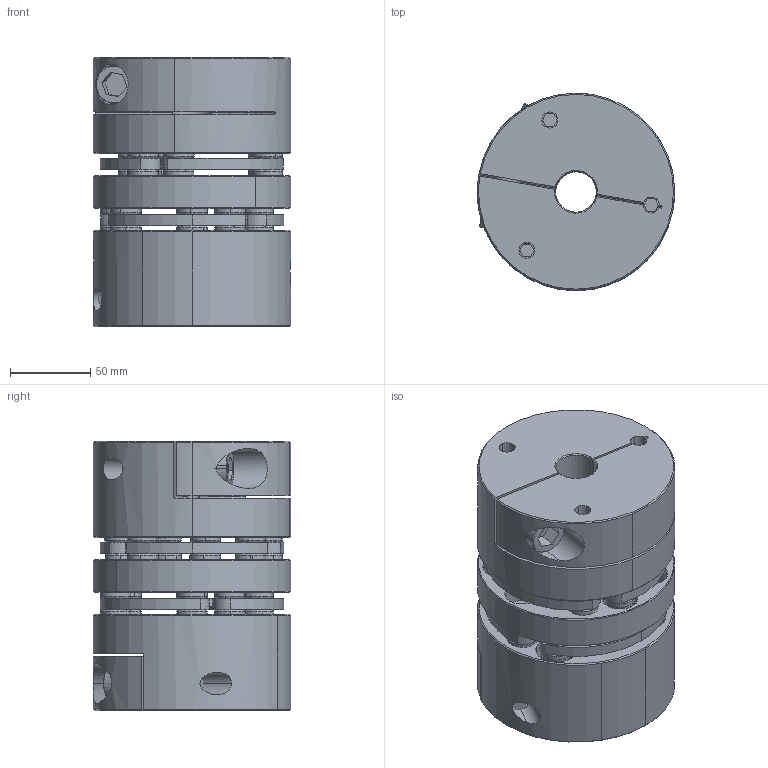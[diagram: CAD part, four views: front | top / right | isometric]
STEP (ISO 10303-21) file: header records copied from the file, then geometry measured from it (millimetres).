
FILE_DESCRIPTION((''),'2;1');
FILE_NAME('6P45-A1C','2019-02-14T',('SYSTEM'),(''),'PRO/ENGINEER BY PARAMETRIC TECHNOLOGY CORPORATION, 2016360','PRO/ENGINEER BY PARAMETRIC TECHNOLOGY CORPORATION, 2016360','');
FILE_SCHEMA(('AUTOMOTIVE_DESIGN { 1 0 10303 214 1 1 1 1 }'));
Length unit declared in the file: inch
Products named in the file (1): 6P45-A1C
Bounding box: 123.01 x 123.01 x 167.97 mm (x, y, z)
Volume: 1525784.8 mm3; surface area: 260744.2 mm2
Topology: 1 solids, 19 shells, 1177 faces, 3312 edges, 2241 vertices
Faces by surface type: cylinder 531, cone 304, plane 234, torus 108
Entity records: 50039 total; most frequent: DIRECTION 7688, CARTESIAN_POINT 7051, ORIENTED_EDGE 6590, PRESENTATION_STYLE_ASSIGNMENT 3345, STYLED_ITEM 3296, CURVE_STYLE 3295, EDGE_CURVE 3295, AXIS2_PLACEMENT_3D 3273
